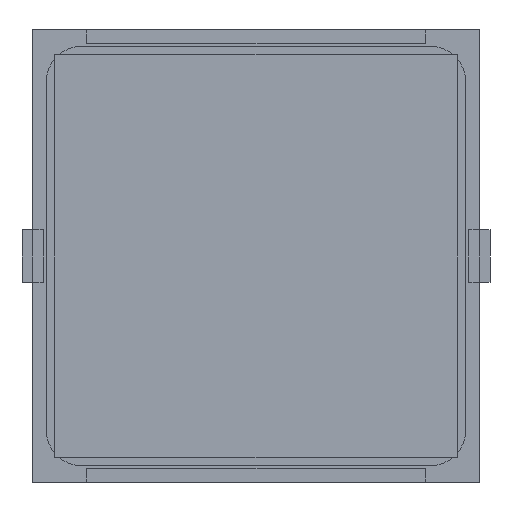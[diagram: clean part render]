
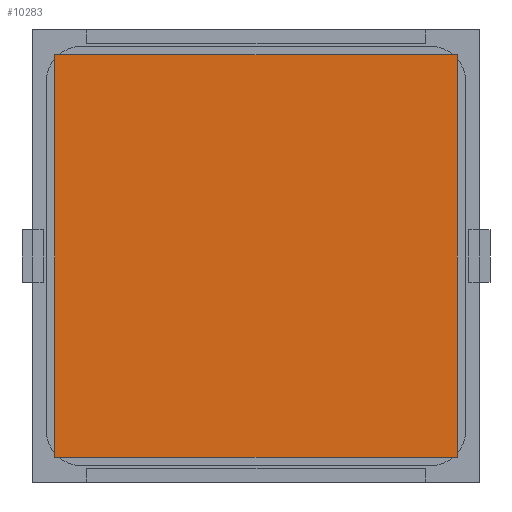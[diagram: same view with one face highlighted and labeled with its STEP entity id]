
A CAD part, front view. The second image highlights one B-rep face of the part: STEP entity #10283.
In plain terms, the highlighted planar face has unit normal (0, -1, 0).
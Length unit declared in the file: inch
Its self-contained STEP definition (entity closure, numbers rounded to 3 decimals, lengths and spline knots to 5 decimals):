
#461 = LINE ( 'NONE', #9512, #9305 ) ;
#1031 = EDGE_CURVE ( 'NONE', #3202, #6317, #3206, .T. ) ;
#2486 = EDGE_CURVE ( 'NONE', #8422, #3684, #10400, .T. ) ;
#2610 = DIRECTION ( 'NONE',  ( 1., 0., 0. ) ) ;
#2894 = CARTESIAN_POINT ( 'NONE',  ( -0.74803, -0.005, 0.74803 ) ) ;
#3202 = VERTEX_POINT ( 'NONE', #9590 ) ;
#3206 = LINE ( 'NONE', #9107, #5777 ) ;
#3394 = DIRECTION ( 'NONE',  ( 0., 0., 1. ) ) ;
#3541 = LINE ( 'NONE', #7225, #5102 ) ;
#3554 = EDGE_LOOP ( 'NONE', ( #3721, #4156, #7294, #4252 ) ) ;
#3603 = EDGE_CURVE ( 'NONE', #6317, #8422, #3541, .T. ) ;
#3669 = DIRECTION ( 'NONE',  ( 0., 0., -1. ) ) ;
#3684 = VERTEX_POINT ( 'NONE', #7698 ) ;
#3721 = ORIENTED_EDGE ( 'NONE', *, *, #1031, .F. ) ;
#4156 = ORIENTED_EDGE ( 'NONE', *, *, #8364, .F. ) ;
#4252 = ORIENTED_EDGE ( 'NONE', *, *, #3603, .F. ) ;
#5102 = VECTOR ( 'NONE', #2610, 39.37008 ) ;
#5742 = FACE_OUTER_BOUND ( 'NONE', #3554, .T. ) ;
#5777 = VECTOR ( 'NONE', #3394, 39.37008 ) ;
#6317 = VERTEX_POINT ( 'NONE', #9228 ) ;
#6812 = DIRECTION ( 'NONE',  ( -1., 0., 0. ) ) ;
#7225 = CARTESIAN_POINT ( 'NONE',  ( -0.74803, -0.005, 0.74803 ) ) ;
#7294 = ORIENTED_EDGE ( 'NONE', *, *, #2486, .F. ) ;
#7689 = VECTOR ( 'NONE', #3669, 39.37008 ) ;
#7698 = CARTESIAN_POINT ( 'NONE',  ( 0.74803, -0.005, -0.74803 ) ) ;
#8364 = EDGE_CURVE ( 'NONE', #3684, #3202, #461, .T. ) ;
#8390 = AXIS2_PLACEMENT_3D ( 'NONE', #2894, #9490, #8562 ) ;
#8422 = VERTEX_POINT ( 'NONE', #9860 ) ;
#8562 = DIRECTION ( 'NONE',  ( 0., 0., 1. ) ) ;
#9107 = CARTESIAN_POINT ( 'NONE',  ( -0.74803, -0.005, -0.74803 ) ) ;
#9228 = CARTESIAN_POINT ( 'NONE',  ( -0.74803, -0.005, 0.74803 ) ) ;
#9305 = VECTOR ( 'NONE', #6812, 39.37008 ) ;
#9490 = DIRECTION ( 'NONE',  ( 0., 1., 0. ) ) ;
#9512 = CARTESIAN_POINT ( 'NONE',  ( -0.74803, -0.005, -0.74803 ) ) ;
#9590 = CARTESIAN_POINT ( 'NONE',  ( -0.74803, -0.005, -0.74803 ) ) ;
#9860 = CARTESIAN_POINT ( 'NONE',  ( 0.74803, -0.005, 0.74803 ) ) ;
#10210 = CARTESIAN_POINT ( 'NONE',  ( 0.74803, -0.005, -0.74803 ) ) ;
#10283 = ADVANCED_FACE ( 'NONE', ( #5742 ), #10294, .F. ) ;
#10294 = PLANE ( 'NONE',  #8390 ) ;
#10400 = LINE ( 'NONE', #10210, #7689 ) ;
